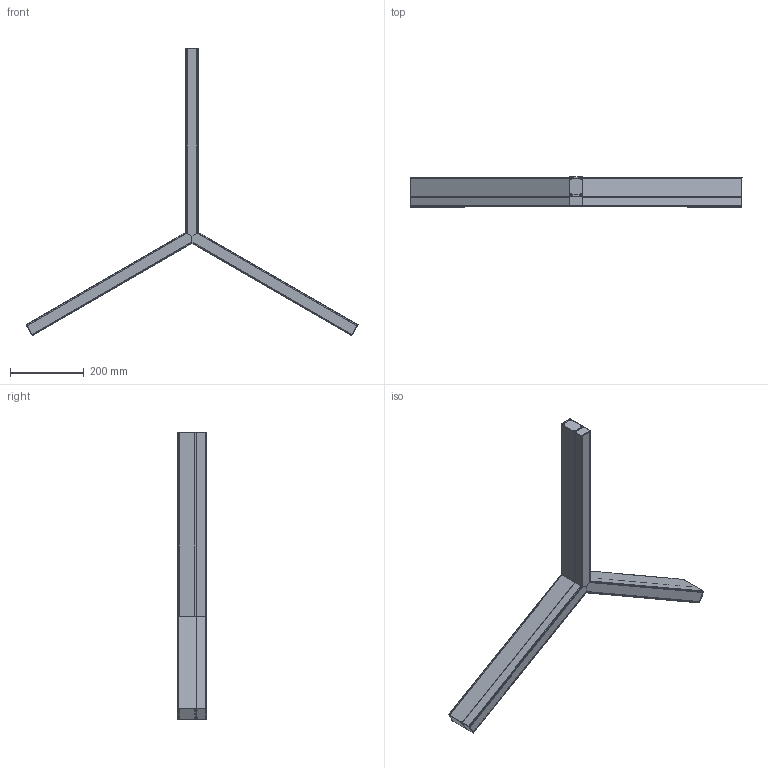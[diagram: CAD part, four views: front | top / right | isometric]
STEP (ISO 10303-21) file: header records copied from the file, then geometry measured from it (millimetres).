
FILE_DESCRIPTION(('STEP AP203'), '1');
FILE_NAME('Ìàòèê Òðèòèê 30Âò', '', ('UNSPECIFIED'), ('UNSPECIFIED'), 'ASCON STEP Converter 1.6', 'ASCON Math Kernel', '');
FILE_SCHEMA(('CONFIG_CONTROL_DESIGN'));
Length unit declared in the file: millimetre
Products named in the file (4): -01
Assembly tree (7 placements, depth 3):
  (unnamed)
    (unnamed)
      (unnamed)  x2
    -01  x2
      (unnamed)
Bounding box: 897.38 x 80 x 777.31 mm (x, y, z)
Volume: 610554.1 mm3; surface area: 959781.5 mm2
Topology: 16 solids, 16 shells, 743 faces, 2098 edges, 1412 vertices
Faces by surface type: plane 364, cylinder 323, bspline 24, cone 18, torus 14
Full cylindrical faces by diameter (mm): 2.9 x6, 6.3 x6, 8 x1, 10 x2, 14 x2
Entity records: 14509 total; most frequent: CARTESIAN_POINT 3208, ORIENTED_EDGE 2402, DIRECTION 2112, EDGE_CURVE 1201, VERTEX_POINT 809, LINE 754, VECTOR 754, AXIS2_PLACEMENT_3D 679
